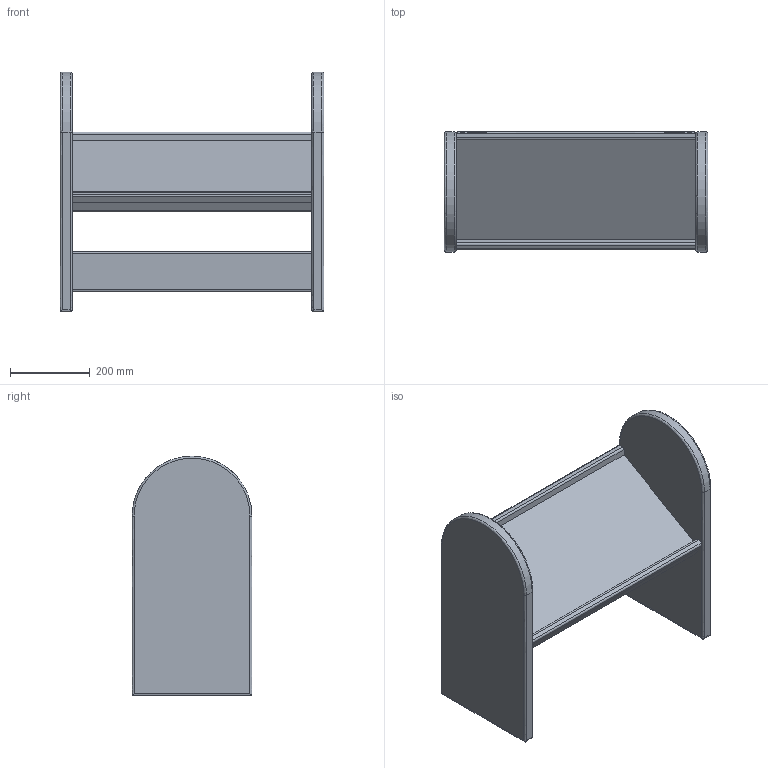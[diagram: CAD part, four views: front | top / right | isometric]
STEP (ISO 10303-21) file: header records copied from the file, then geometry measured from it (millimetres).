
FILE_DESCRIPTION(/* description */ (''),/* implementation_level */ '2;1');
FILE_NAME(/* name */ 'KINOSH~1',/* time_stamp */ '2021-12-02T15:39:55+09:00',/* author */ (''),/* organization */ (''),/* preprocessor_version */ 'ST-DEVELOPER v16.5',/* originating_system */ '',/* authorisation */ '');
FILE_SCHEMA (('AUTOMOTIVE_DESIGN'));
Length unit declared in the file: millimetre
Products named in the file (1): Document
Bounding box: 660 x 300 x 599.8 mm (x, y, z)
Volume: 18178817.7 mm3; surface area: 1513019.1 mm2
Topology: 6 solids, 6 shells, 71 faces, 161 edges, 102 vertices
Faces by surface type: bspline 43, plane 28
Entity records: 2388 total; most frequent: CARTESIAN_POINT 1330, ORIENTED_EDGE 322, EDGE_CURVE 161, VERTEX_POINT 102, B_SPLINE_CURVE_WITH_KNOTS 87, ADVANCED_FACE 71, FACE_OUTER_BOUND 71, EDGE_LOOP 71
